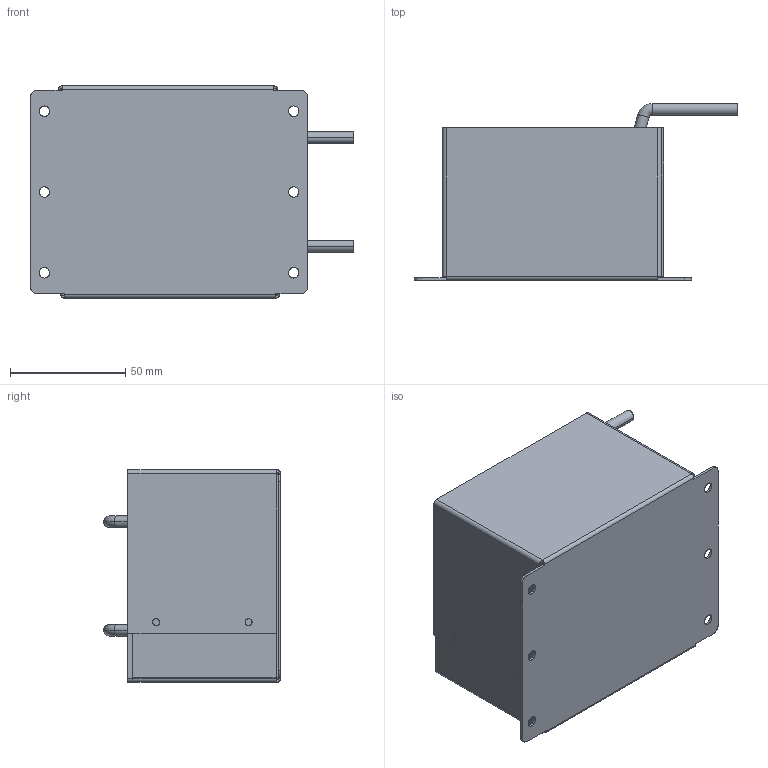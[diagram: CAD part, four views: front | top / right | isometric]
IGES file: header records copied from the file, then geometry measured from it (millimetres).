
Start section: SolidWorks IGES file using analytic representation for surfaces
Global section: file name: 18H\\10.106.230.1\r&d file\05_COMP\02_Mechanical\10_Others\PV_RT 81\网络用3D模型\灌封模型\S-4KW-S-DCL\S-4KW_S_DCL总装.IGS; native system: SolidWorks 2009; preprocessor: SolidWorks 2009; author: 钱雅婧,, ; organization: 11; date: 120507.170915; units: millimetre
Bounding box: 139.9 x 76.5 x 92 mm (x, y, z)
Surface area: 118298.2 mm2 (no closed solid volume)
Topology: 0 solids, 0 shells, 114 faces, 844 edges, 844 vertices
Faces by surface type: bspline 66, revolution 48
